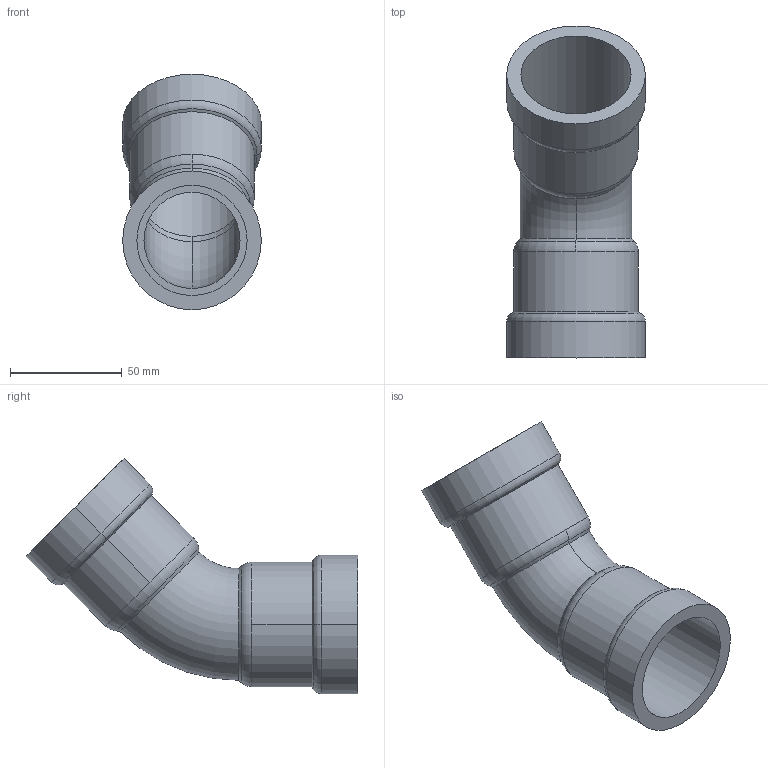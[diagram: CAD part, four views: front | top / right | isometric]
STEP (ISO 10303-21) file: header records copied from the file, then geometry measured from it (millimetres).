
FILE_DESCRIPTION(('Creo Elements/Direct Modeling STEP Export'),'2;1');
FILE_NAME('C9413_1-1-2.stp','2020-07-14T16:11:30',(''),(''),'PTC Creo Elements/Direct Modeling STEP processor for AP214 (Solid Model)','PTC Creo Elements/Direct Modeling 19.0C 15-Aug-2015 (C) Parametric Technology GmbH','');
FILE_SCHEMA(('AUTOMOTIVE_DESIGN { 1 0 10303 214 1 1 1 1 }'));
Length unit declared in the file: millimetre
Products named in the file (1): 9413_1-1-2
Bounding box: 62 x 148.43 x 105.32 mm (x, y, z)
Volume: 100206.2 mm3; surface area: 51194.9 mm2
Topology: 1 solids, 1 shells, 40 faces, 88 edges, 52 vertices
Faces by surface type: cylinder 16, torus 12, cone 8, plane 4
Entity records: 2377 total; most frequent: CARTESIAN_POINT 1520, DIRECTION 176, ORIENTED_EDGE 176, EDGE_CURVE 88, AXIS2_PLACEMENT_3D 76, VERTEX_POINT 52, EDGE_LOOP 44, FACE_OUTER_BOUND 40
